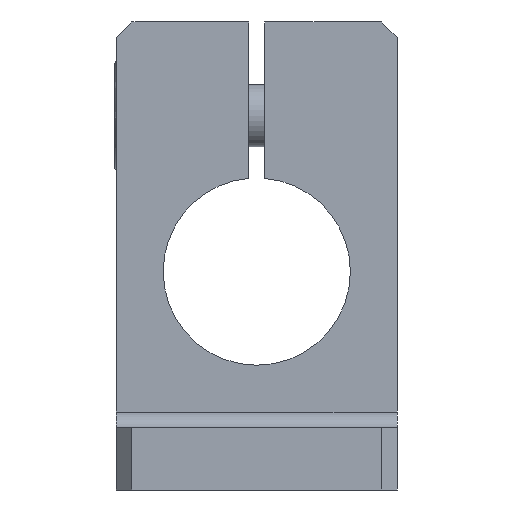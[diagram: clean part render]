
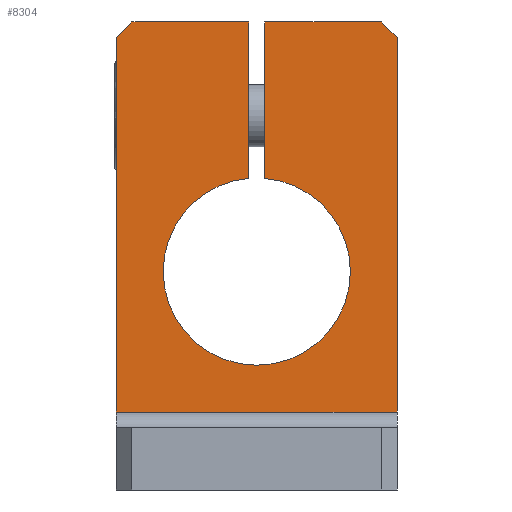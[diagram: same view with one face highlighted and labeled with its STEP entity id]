
A CAD part, left-side view. The second image highlights one B-rep face of the part: STEP entity #8304.
In plain terms, the highlighted planar face has unit normal (-1, 0, 0).
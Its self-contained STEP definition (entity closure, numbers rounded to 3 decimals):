
#2 = DIRECTION ( 'NONE',  ( 0., 0., 1. ) ) ;
#75 = PLANE ( 'NONE',  #6996 ) ;
#214 = DIRECTION ( 'NONE',  ( 0., 1., 0. ) ) ;
#345 = EDGE_CURVE ( 'NONE', #10888, #5153, #10011, .T. ) ;
#409 = ORIENTED_EDGE ( 'NONE', *, *, #6153, .F. ) ;
#561 = CARTESIAN_POINT ( 'NONE',  ( 41.396, 43.989, -1. ) ) ;
#721 = CARTESIAN_POINT ( 'NONE',  ( 41.396, 29.489, 14.5 ) ) ;
#773 = DIRECTION ( 'NONE',  ( -1., 0., 0. ) ) ;
#776 = VECTOR ( 'NONE', #4996, 1000. ) ;
#1247 = VERTEX_POINT ( 'NONE', #561 ) ;
#1370 = VECTOR ( 'NONE', #10187, 1000. ) ;
#1373 = ORIENTED_EDGE ( 'NONE', *, *, #1941, .F. ) ;
#1390 = EDGE_LOOP ( 'NONE', ( #409, #2238, #3485, #1373, #6203, #7958, #9134, #11853, #7452, #4461, #4268, #6191 ) ) ;
#1549 = CARTESIAN_POINT ( 'NONE',  ( 41.396, 46.989, -10. ) ) ;
#1844 = EDGE_CURVE ( 'NONE', #5153, #1247, #9495, .T. ) ;
#1941 = EDGE_CURVE ( 'NONE', #6722, #10198, #4740, .T. ) ;
#2238 = ORIENTED_EDGE ( 'NONE', *, *, #3533, .F. ) ;
#2283 = LINE ( 'NONE', #2702, #12125 ) ;
#2395 = AXIS2_PLACEMENT_3D ( 'NONE', #8421, #773, #4520 ) ;
#2624 = CARTESIAN_POINT ( 'NONE',  ( 41.396, 31.989, -1. ) ) ;
#2688 = VECTOR ( 'NONE', #2, 1000. ) ;
#2702 = CARTESIAN_POINT ( 'NONE',  ( 41.396, 37.989, 15. ) ) ;
#2870 = VECTOR ( 'NONE', #3172, 1000. ) ;
#2930 = DIRECTION ( 'NONE',  ( 0., -1., 0. ) ) ;
#3063 = CARTESIAN_POINT ( 'NONE',  ( 41.396, 37.489, 4.979 ) ) ;
#3114 = EDGE_CURVE ( 'NONE', #6188, #10888, #11591, .T. ) ;
#3172 = DIRECTION ( 'NONE',  ( 0., 0.707, -0.707 ) ) ;
#3294 = VERTEX_POINT ( 'NONE', #10977 ) ;
#3485 = ORIENTED_EDGE ( 'NONE', *, *, #6859, .F. ) ;
#3533 = EDGE_CURVE ( 'NONE', #7951, #12173, #2283, .T. ) ;
#3875 = CARTESIAN_POINT ( 'NONE',  ( 41.396, 37.989, 15. ) ) ;
#3904 = LINE ( 'NONE', #4591, #1370 ) ;
#3986 = VECTOR ( 'NONE', #2930, 1000. ) ;
#4268 = ORIENTED_EDGE ( 'NONE', *, *, #9074, .F. ) ;
#4294 = CARTESIAN_POINT ( 'NONE',  ( 41.396, 29.989, 15. ) ) ;
#4350 = LINE ( 'NONE', #721, #4667 ) ;
#4461 = ORIENTED_EDGE ( 'NONE', *, *, #8801, .F. ) ;
#4520 = DIRECTION ( 'NONE',  ( 0., 1., 0. ) ) ;
#4591 = CARTESIAN_POINT ( 'NONE',  ( 41.396, 46.989, -0.5 ) ) ;
#4667 = VECTOR ( 'NONE', #6541, 1000. ) ;
#4674 = VECTOR ( 'NONE', #4894, 1000. ) ;
#4740 = CIRCLE ( 'NONE', #2395, 6. ) ;
#4804 = LINE ( 'NONE', #7808, #776 ) ;
#4875 = AXIS2_PLACEMENT_3D ( 'NONE', #7367, #11205, #10234 ) ;
#4894 = DIRECTION ( 'NONE',  ( 0., 0., -1. ) ) ;
#4996 = DIRECTION ( 'NONE',  ( 0., 1., 0. ) ) ;
#5153 = VERTEX_POINT ( 'NONE', #8556 ) ;
#5587 = LINE ( 'NONE', #6333, #8988 ) ;
#5615 = EDGE_CURVE ( 'NONE', #11829, #8520, #5587, .T. ) ;
#5641 = CARTESIAN_POINT ( 'NONE',  ( 41.396, 28.989, 14. ) ) ;
#5704 = CARTESIAN_POINT ( 'NONE',  ( 41.396, 37.489, 2.5 ) ) ;
#5893 = CARTESIAN_POINT ( 'NONE',  ( 41.396, 37.989, -1. ) ) ;
#6153 = EDGE_CURVE ( 'NONE', #12173, #11829, #4350, .T. ) ;
#6188 = VERTEX_POINT ( 'NONE', #8382 ) ;
#6191 = ORIENTED_EDGE ( 'NONE', *, *, #5615, .F. ) ;
#6203 = ORIENTED_EDGE ( 'NONE', *, *, #11411, .F. ) ;
#6333 = CARTESIAN_POINT ( 'NONE',  ( 41.396, 28.989, 2.5 ) ) ;
#6425 = LINE ( 'NONE', #10690, #2870 ) ;
#6496 = EDGE_CURVE ( 'NONE', #6188, #3294, #6425, .T. ) ;
#6541 = DIRECTION ( 'NONE',  ( 0., -0.707, -0.707 ) ) ;
#6604 = CARTESIAN_POINT ( 'NONE',  ( 41.396, 38.489, 15. ) ) ;
#6722 = VERTEX_POINT ( 'NONE', #2624 ) ;
#6819 = DIRECTION ( 'NONE',  ( 1., 0., 0. ) ) ;
#6859 = EDGE_CURVE ( 'NONE', #10198, #7951, #8479, .T. ) ;
#6996 = AXIS2_PLACEMENT_3D ( 'NONE', #9757, #6819, #8706 ) ;
#7209 = FACE_OUTER_BOUND ( 'NONE', #1390, .T. ) ;
#7292 = DIRECTION ( 'NONE',  ( 0., 0., -1. ) ) ;
#7367 = CARTESIAN_POINT ( 'NONE',  ( 41.396, 37.989, -1. ) ) ;
#7403 = VERTEX_POINT ( 'NONE', #1549 ) ;
#7452 = ORIENTED_EDGE ( 'NONE', *, *, #6496, .T. ) ;
#7808 = CARTESIAN_POINT ( 'NONE',  ( 41.396, 37.989, -10. ) ) ;
#7943 = CARTESIAN_POINT ( 'NONE',  ( 41.396, 28.989, -10. ) ) ;
#7951 = VERTEX_POINT ( 'NONE', #8161 ) ;
#7958 = ORIENTED_EDGE ( 'NONE', *, *, #1844, .F. ) ;
#8161 = CARTESIAN_POINT ( 'NONE',  ( 41.396, 37.489, 15. ) ) ;
#8304 = ADVANCED_FACE ( 'NONE', ( #7209 ), #75, .F. ) ;
#8382 = CARTESIAN_POINT ( 'NONE',  ( 41.396, 45.989, 15. ) ) ;
#8421 = CARTESIAN_POINT ( 'NONE',  ( 41.396, 37.989, -1. ) ) ;
#8468 = DIRECTION ( 'NONE',  ( 0., -1., 0. ) ) ;
#8479 = LINE ( 'NONE', #5704, #2688 ) ;
#8520 = VERTEX_POINT ( 'NONE', #7943 ) ;
#8556 = CARTESIAN_POINT ( 'NONE',  ( 41.396, 38.489, 4.979 ) ) ;
#8706 = DIRECTION ( 'NONE',  ( 0., 0., -1. ) ) ;
#8801 = EDGE_CURVE ( 'NONE', #7403, #3294, #3904, .T. ) ;
#8988 = VECTOR ( 'NONE', #7292, 1000. ) ;
#9074 = EDGE_CURVE ( 'NONE', #8520, #7403, #4804, .T. ) ;
#9134 = ORIENTED_EDGE ( 'NONE', *, *, #345, .F. ) ;
#9495 = CIRCLE ( 'NONE', #4875, 6. ) ;
#9563 = DIRECTION ( 'NONE',  ( -1., 0., 0. ) ) ;
#9594 = CARTESIAN_POINT ( 'NONE',  ( 41.396, 38.489, 2.5 ) ) ;
#9757 = CARTESIAN_POINT ( 'NONE',  ( 41.396, 28.989, 15. ) ) ;
#10011 = LINE ( 'NONE', #9594, #4674 ) ;
#10187 = DIRECTION ( 'NONE',  ( 0., 0., 1. ) ) ;
#10198 = VERTEX_POINT ( 'NONE', #3063 ) ;
#10234 = DIRECTION ( 'NONE',  ( 0., 1., 0. ) ) ;
#10690 = CARTESIAN_POINT ( 'NONE',  ( 41.396, 46.489, 14.5 ) ) ;
#10888 = VERTEX_POINT ( 'NONE', #6604 ) ;
#10977 = CARTESIAN_POINT ( 'NONE',  ( 41.396, 46.989, 14. ) ) ;
#11205 = DIRECTION ( 'NONE',  ( -1., 0., 0. ) ) ;
#11411 = EDGE_CURVE ( 'NONE', #1247, #6722, #11720, .T. ) ;
#11591 = LINE ( 'NONE', #3875, #3986 ) ;
#11720 = CIRCLE ( 'NONE', #12196, 6. ) ;
#11829 = VERTEX_POINT ( 'NONE', #5641 ) ;
#11853 = ORIENTED_EDGE ( 'NONE', *, *, #3114, .F. ) ;
#12125 = VECTOR ( 'NONE', #8468, 1000. ) ;
#12173 = VERTEX_POINT ( 'NONE', #4294 ) ;
#12196 = AXIS2_PLACEMENT_3D ( 'NONE', #5893, #9563, #214 ) ;
